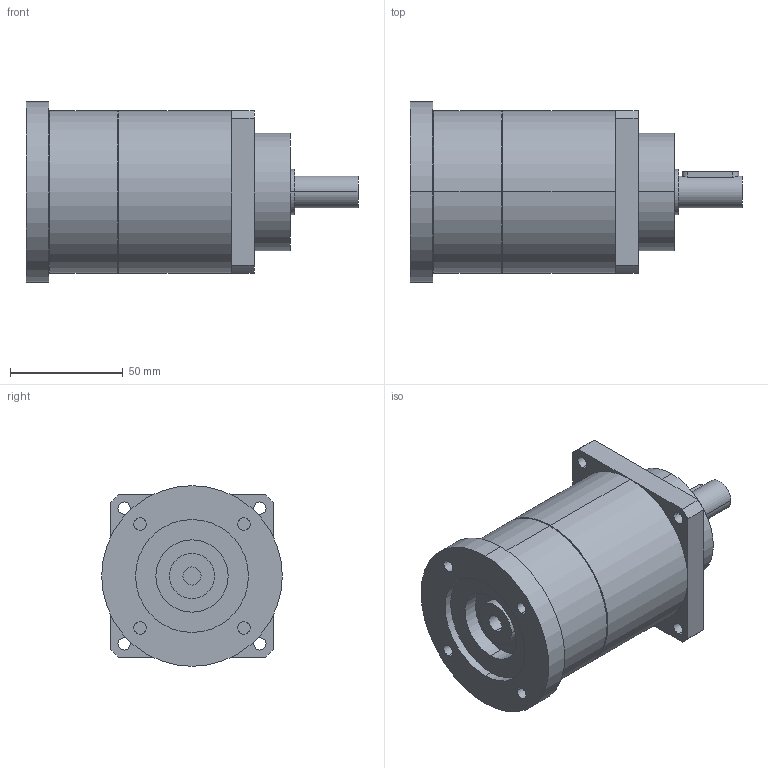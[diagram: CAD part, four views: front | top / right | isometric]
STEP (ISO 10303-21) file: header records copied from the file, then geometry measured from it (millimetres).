
FILE_DESCRIPTION(('CoCreate Modeling STEP Export'),'2;1');
FILE_NAME('GPT75_ig-9-12-16-20-25-28-35-40-50-70-100_14_B5T_8_P13.stp','2014-08-27T13:41:36',(''),(''),'CoCreate Modeling STEP processor for AP214 (Solid Model)','CoCreate Modeling 16.00C 25-Feb-2009 (C) Parametric Technology GmbH','');
FILE_SCHEMA(('AUTOMOTIVE_DESIGN { 1 0 10303 214 1 1 1 1 }'));
Length unit declared in the file: millimetre
Products named in the file (2): GPT75_ig-9-12-16-20-25-28-35-40-50-70-100_14_B5T_8_P13
Assembly tree (1 placements, depth 2):
  GPT75_ig-9-12-16-20-25-28-35-40-50-70-100_14_B5T_8_P13
    GPT75_ig-9-12-16-20-25-28-35-40-50-70-100_14_B5T_8_P13
Bounding box: 147 x 80 x 80 mm (x, y, z)
Volume: 456034 mm3; surface area: 43890 mm2
Topology: 1 solids, 1 shells, 75 faces, 178 edges, 119 vertices
Faces by surface type: cylinder 44, plane 27, cone 4
Entity records: 2281 total; most frequent: CARTESIAN_POINT 682, ORIENTED_EDGE 356, DIRECTION 280, EDGE_CURVE 178, VERTEX_POINT 119, AXIS2_PLACEMENT_3D 105, EDGE_LOOP 97, FACE_OUTER_BOUND 75
